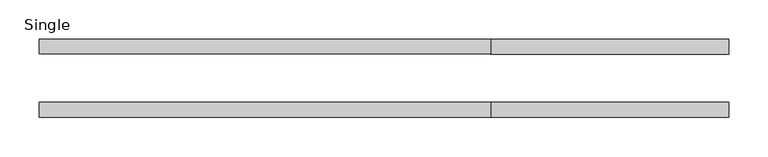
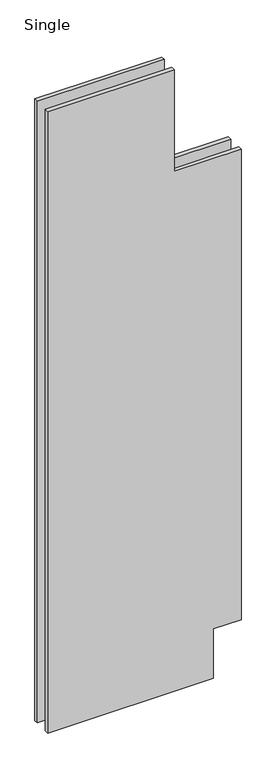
"""IFC4 building model written with IfcOpenShell, lengths in millimetres: plate geometry, Panel-Filler-Teknion-FHPL-AI_Healthcare-R2022 : Single."""

from ifc_helpers import new_model, si_unit, frame, origin, place, context, project, spatial, polyline, outline, extrude, source, transform, mapped, element, save


def single_c513470a(model_context):
    return source(origin(), model_context, "Body", "SweptSolid", [
        extrude(outline(polyline([(15.875, -441.6008998), (15.875, 314.6008998), (254.0, 314.6008998), (254.0, 441.6008998), (2524.1250001, 441.6008998), (2524.1250001, 136.8008998), (3015.4118001, 136.8008998), (3015.4118001, -441.6008998), (15.875, -441.6008998)])), frame((0.0, 30.9891455, 0.0), z_axis=(0.0, 1.0, 0.0), x_axis=(0.0, 0.0, 1.0)), (0.0, 0.0, 1.0), 19.05),
        extrude(outline(polyline([(15.875, -441.6008998), (15.875, 314.6008998), (254.0, 314.6008998), (254.0, 441.6008998), (2524.1250001, 441.6008998), (2524.1250001, 136.8008998), (3015.4118001, 136.8008998), (3015.4118001, -441.6008998), (15.875, -441.6008998)])), frame((0.0, -50.0368545, 0.0), z_axis=(0.0, 1.0, 0.0), x_axis=(0.0, 0.0, 1.0)), (0.0, 0.0, 1.0), 19.05),
    ])


if __name__ == "__main__":
    model = new_model("IFC4")
    model_context = context("Model", 3, world=origin())
    ifc_project = project(units=[si_unit("LENGTHUNIT", "METRE", prefix="MILLI")], contexts=[model_context])
    site = spatial("IfcSite", under=ifc_project)
    building = spatial("IfcBuilding", under=site)
    placement = place(None, origin())
    single_shape = single_c513470a(model_context)
    element("IfcPlate", 1, ObjectType="Panel-Filler-Teknion-FHPL-AI_Healthcare-R2022 : Single", at=placement, inside=building, context=model_context, shape_type="MappedRepresentation", body=[
        mapped(single_shape, transform((0.0, 0.0, 0.0), x_axis=(1.0, 0.0, 0.0), y_axis=(0.0, 1.0, 0.0), z_axis=(0.0, 0.0, 1.0))),
    ])
    save(model, "model.ifc")
